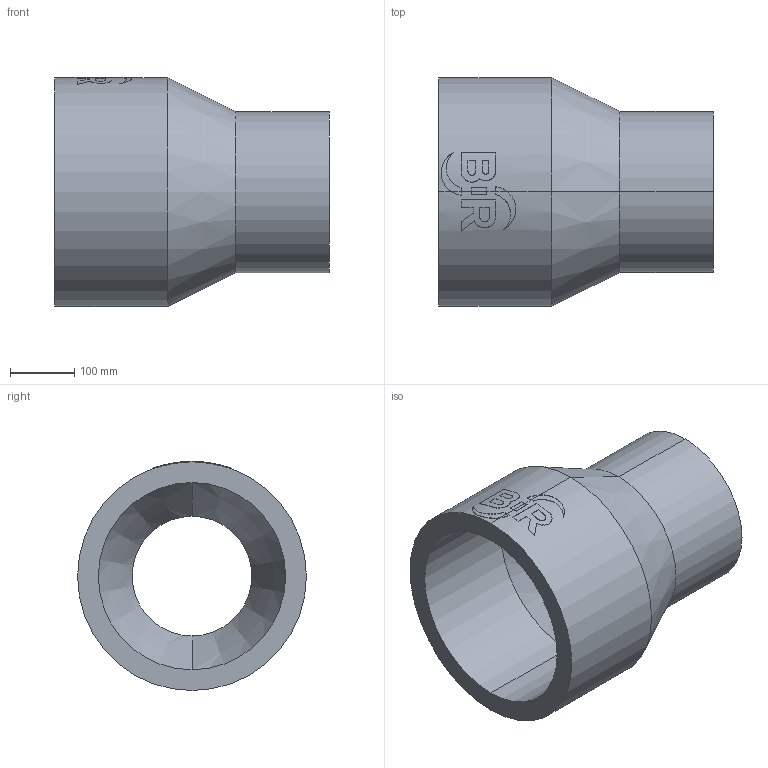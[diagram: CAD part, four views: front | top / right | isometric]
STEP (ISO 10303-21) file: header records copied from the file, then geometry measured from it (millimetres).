
FILE_DESCRIPTION (( 'STEP AP214' ), '1' );
FILE_NAME ('2323242115.STEP', '2018-07-20T10:36:34', ( '' ), ( '' ), 'SwSTEP 2.0', 'SolidWorks 2017', '' );
FILE_SCHEMA (( 'AUTOMOTIVE_DESIGN' ));
Length unit declared in the file: millimetre
Products named in the file (1): 2323242115
Bounding box: 426 x 355 x 355.46 mm (x, y, z)
Volume: 12105916.9 mm3; surface area: 806945.2 mm2
Topology: 1 solids, 1 shells, 63 faces, 160 edges, 104 vertices
Faces by surface type: cylinder 31, plane 28, cone 4
Entity records: 3452 total; most frequent: CARTESIAN_POINT 1243, ORIENTED_EDGE 320, DIRECTION 296, EDGE_CURVE 160, AXIS2_PLACEMENT_3D 112, VERTEX_POINT 104, VECTOR 72, LINE 72
